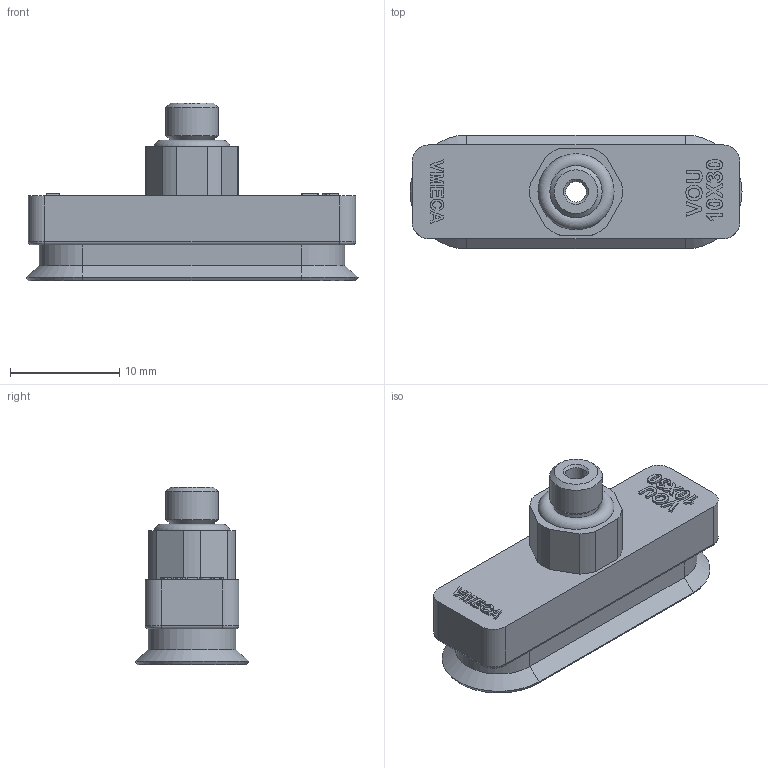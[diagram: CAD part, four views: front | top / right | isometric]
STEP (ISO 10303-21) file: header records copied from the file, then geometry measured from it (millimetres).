
FILE_DESCRIPTION( ( 'Unknown' ), '1' );
FILE_NAME( 'D:/New PAD/PAD-VOU/Part/STEP/VOU 10X30_M5M.stp', 'Unknown', ( 'Unknown' ), ( 'Unknown' ), 'XStep 1.0', 'Unknown', ' ' );
FILE_SCHEMA( ( 'automotive_design' ) );
Length unit declared in the file: millimetre
Products named in the file (1): Fitting-M5M VOU
Bounding box: 30.42 x 10.42 x 16.3 mm (x, y, z)
Volume: 2181.1 mm3; surface area: 1477.5 mm2
Topology: 1 solids, 1 shells, 163 faces, 397 edges, 257 vertices
Faces by surface type: extrusion 90, plane 41, cylinder 20, cone 7, torus 5
Full cylindrical faces by diameter (mm): 1.9 x1, 3 x1, 4 x1, 4.8 x1
Entity records: 6867 total; most frequent: CARTESIAN_POINT 1937, ORIENTED_EDGE 764, DIRECTION 566, EDGE_CURVE 382, VECTOR 314, VERTEX_POINT 256, LINE 224, EDGE_LOOP 200
